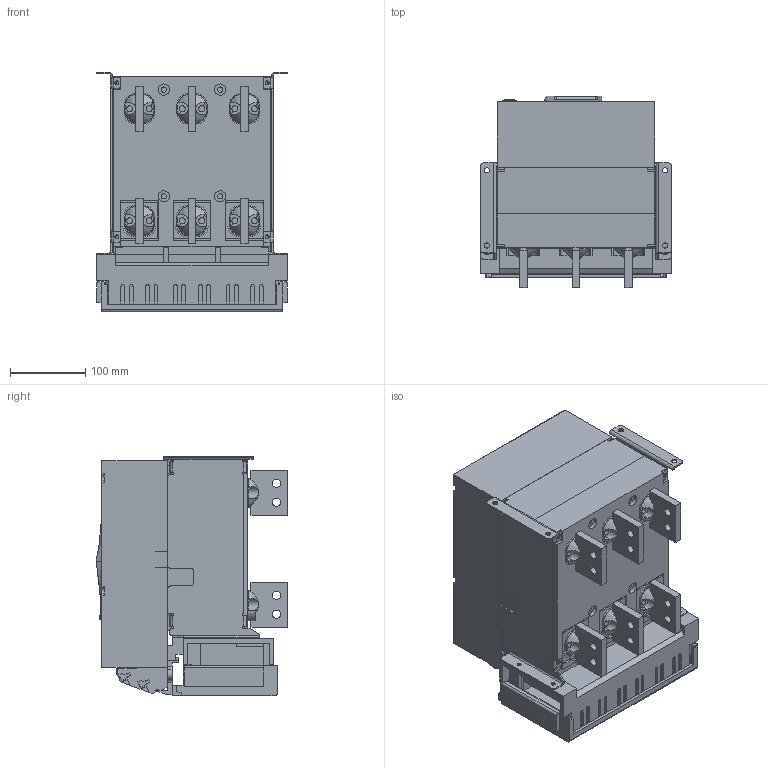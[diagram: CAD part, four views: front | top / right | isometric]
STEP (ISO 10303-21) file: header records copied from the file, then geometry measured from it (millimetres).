
FILE_DESCRIPTION((''),'2;1');
FILE_NAME('NA8G-1600-1000-F-3P-V_ASM','2019-05-31T10:42:45',('lcc'),(''),'CREO PARAMETRIC BY PTC INC, 2018020','CREO PARAMETRIC BY PTC INC, 2018020','');
FILE_SCHEMA(('CONFIG_CONTROL_DESIGN','SHAPE_APPEARANCE_LAYERS_GROUPS'));
Products named in the file (18): 1600-JIZUO-3P; 1600-DIBAN-3P; 8-050-245; 8-050-246; 8-300-166; 8-015-021; 8-300-162-2; 8ZTD-064-138; 8ZTD-024-689; 8ZTD-860-511; 1600-DUANZI-CTS_ASM; 8-253-348; 8-253-349; 8-253-309; 5-235-147; 8-211-087; 8ZTD-580-199-2; NA8G-1600-1000-F-3P-V_ASM
Assembly tree (37 placements, depth 3):
  NA8G-1600-1000-F-3P-V_ASM
    1600-JIZUO-3P
    1600-DIBAN-3P
    8-050-245
    8-050-246
    8-300-166
    8-015-021
    8-300-162-2
    1600-DUANZI-CTS_ASM
      8ZTD-064-138
      8ZTD-024-689  x14
      8ZTD-860-511
    8-253-348
    8-253-349
    8-253-309
    5-235-147
    8-211-087  x3
    8ZTD-580-199-2  x6
Bounding box: 254 x 255 x 318.5 mm (x, y, z)
Volume: 6867563.8 mm3; surface area: 1408039.9 mm2
Topology: 36 solids, 47 shells, 4943 faces, 13794 edges, 9073 vertices
Faces by surface type: plane 4011, cylinder 869, bspline 34, torus 18, sphere 10, extrusion 1
Entity records: 118883 total; most frequent: CARTESIAN_POINT 17114, ORIENTED_EDGE 15638, DIRECTION 14821, PRESENTATION_STYLE_ASSIGNMENT 8395, STYLED_ITEM 8380, CURVE_STYLE 7822, EDGE_CURVE 7822, VECTOR 6423
